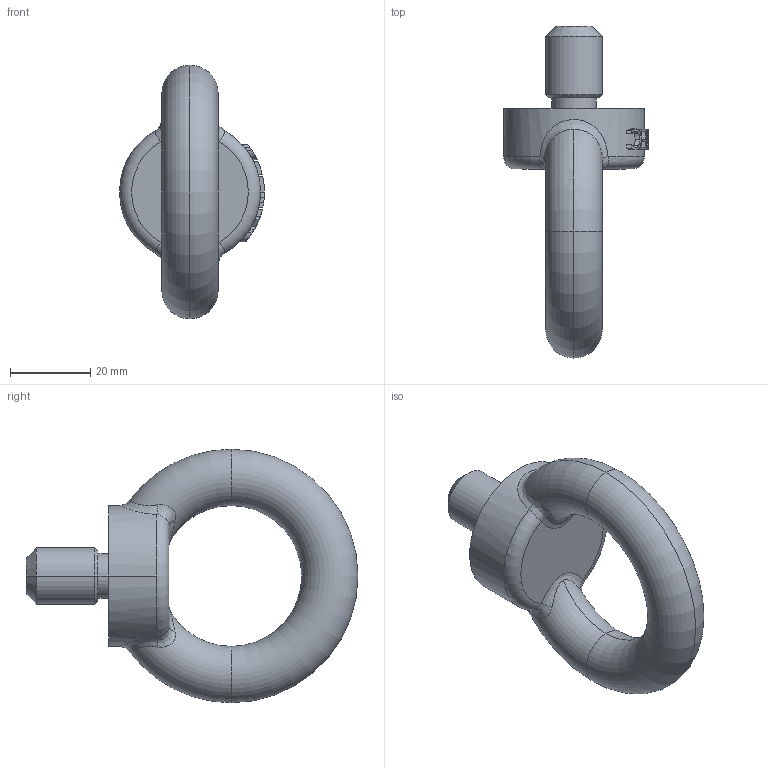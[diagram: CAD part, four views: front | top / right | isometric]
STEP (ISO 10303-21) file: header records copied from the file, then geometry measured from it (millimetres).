
FILE_DESCRIPTION(('STEP AP214'),'1');
FILE_NAME('c80314.stp','2017-03-22T15:07:04',('TraceParts'),('TraceParts S.A.'),'Spatial InterOp 3D',' ',' ');
FILE_SCHEMA(('automotive_design'));
Length unit declared in the file: millimetre
Products named in the file (1): c80314
Bounding box: 36 x 82.5 x 63 mm (x, y, z)
Volume: 35622.5 mm3; surface area: 9472.4 mm2
Topology: 1 solids, 1 shells, 128 faces, 341 edges, 222 vertices
Faces by surface type: plane 54, bspline 47, cylinder 15, torus 8, cone 4
Entity records: 6144 total; most frequent: CARTESIAN_POINT 2136, ORIENTED_EDGE 682, DIRECTION 515, EDGE_CURVE 341, VERTEX_POINT 222, AXIS2_PLACEMENT_3D 190, EDGE_LOOP 137, LINE 135
